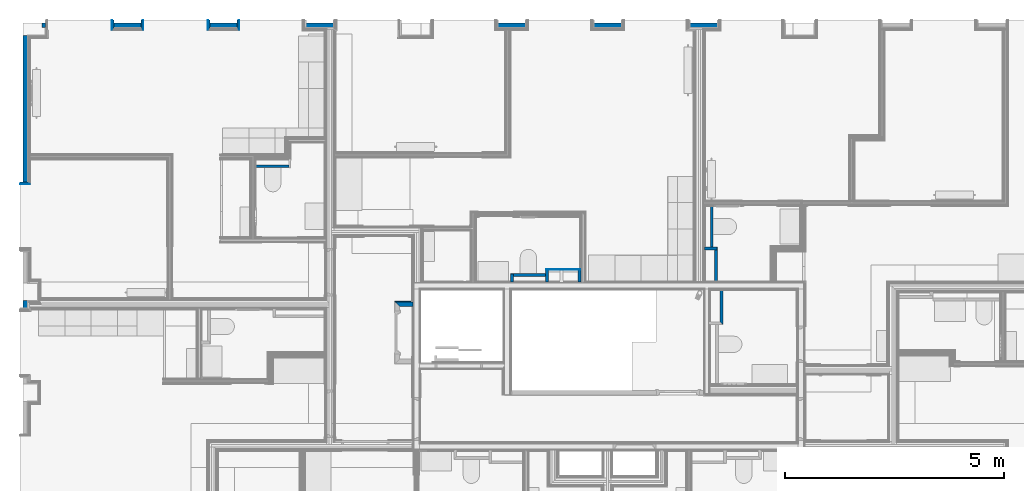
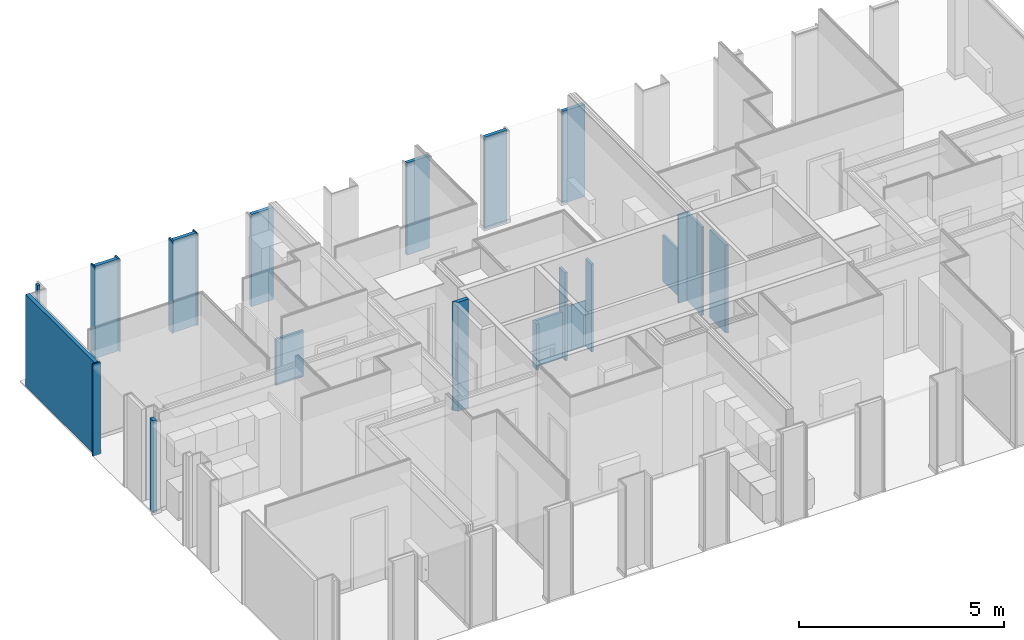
# One storey, part 3 of 64: 30 walls.
"""IFC2X3 building model written with IfcOpenShell, lengths in metres."""

import ifcopenshell
import ifcopenshell.guid

model = None  # the IFC model being written
_history = None  # IfcOwnerHistory: only IFC2X3 demands one
_inside = {}  # id of a spatial element -> (the spatial element, [elements in it])
_under = {}  # id of a project, library or spatial element -> (it, [spatial elements below it])
_declared = {}  # id of a project -> (the project, [libraries it declares])
_typed = {}  # id of a type object -> (the type object, [elements of that type])
_made_of = {}  # id of a material, layer set ... -> (it, [elements and type objects made of it])


def new_model(schema):
    """Start an empty IFC model of exactly this schema.

    Asked for "IFC4X3", IfcOpenShell would pick the latest addendum, in which some entities
    have other attributes; the version numbers below select the first issue.
    IFC2X3 requires an IfcOwnerHistory on every rooted entity: one is made here for all.
    """
    global model, _history
    if schema == "IFC4X3":
        model = ifcopenshell.file(schema_version=(4, 3, 0, 0))
    else:
        model = ifcopenshell.file(schema=schema)
    _inside.clear()
    _under.clear()
    _declared.clear()
    _typed.clear()
    _made_of.clear()
    _history = None
    if model.schema == "IFC2X3":
        org = make("IfcOrganization", Name="unknown")
        user = make(
            "IfcPersonAndOrganization",
            ThePerson=make("IfcPerson", FamilyName="unknown"),
            TheOrganization=org,
        )
        app = make(
            "IfcApplication",
            ApplicationDeveloper=org,
            Version="unknown",
            ApplicationFullName="unknown",
            ApplicationIdentifier="unknown",
        )
        _history = make(
            "IfcOwnerHistory",
            OwningUser=user,
            OwningApplication=app,
            ChangeAction="ADDED",
            CreationDate=0,
        )
    return model


def make(cls, **values):
    """One entity of the class cls with the attributes given. An attribute that is None is left unset."""
    return model.create_entity(
        cls, **{name: value for name, value in values.items() if value is not None}
    )


def entity(cls, *values):
    """Any entity or typed value of the class cls, its attributes in the order of the schema. None: left unset."""
    e = model.create_entity(cls)
    for i, value in enumerate(values):
        if value is not None:
            e[i] = value
    return e


def rooted(cls, **values):
    """An entity with a GlobalId (a new one), such as an element, a storey or a relation."""
    return make(cls, GlobalId=ifcopenshell.guid.new(), OwnerHistory=_history, **values)


def si_unit(unit_type, name, prefix=None):
    """IfcSIUnit, for example si_unit("LENGTHUNIT", "METRE", prefix="MILLI")."""
    return make("IfcSIUnit", UnitType=unit_type, Prefix=prefix, Name=name)


def converted_unit(unit_type, name, factor, base, dimensions=None, offset=None):
    """IfcConversionBasedUnit, such as the inch: factor (a typed value) times the base unit."""
    return make(
        "IfcConversionBasedUnit"
        if offset is None
        else "IfcConversionBasedUnitWithOffset",
        ConversionOffset=offset,
        Dimensions=None
        if dimensions is None
        else entity("IfcDimensionalExponents", *dimensions),
        UnitType=unit_type,
        Name=name,
        ConversionFactor=make(
            "IfcMeasureWithUnit", ValueComponent=factor, UnitComponent=base
        ),
    )


def derived_unit(unit_type, elements):
    """IfcDerivedUnit: a product of units, each with its exponent."""
    return make(
        "IfcDerivedUnit",
        Elements=[
            make("IfcDerivedUnitElement", Unit=unit, Exponent=power)
            for unit, power in elements
        ],
        UnitType=unit_type,
    )


def money_unit(currency):
    """IfcMonetaryUnit."""
    return make("IfcMonetaryUnit", Currency=currency)


def assignment(units):
    """IfcUnitAssignment: the units of a project."""
    return None if units is None else make("IfcUnitAssignment", Units=units)


def point(xyz):
    """IfcCartesianPoint."""
    return None if xyz is None else make("IfcCartesianPoint", Coordinates=xyz)


def direction(xyz):
    """IfcDirection."""
    return None if xyz is None else make("IfcDirection", DirectionRatios=xyz)


def frame(location, z_axis=None, x_axis=None):
    """IfcAxis2Placement3D, a coordinate frame: its origin and axes. An axis left out is left unset."""
    return make(
        "IfcAxis2Placement3D",
        Location=point(location),
        Axis=direction(z_axis),
        RefDirection=direction(x_axis),
    )


def frame_2d(location, x_axis=None):
    """IfcAxis2Placement2D, a coordinate frame in the plane: its origin and x axis."""
    return make(
        "IfcAxis2Placement2D", Location=point(location), RefDirection=direction(x_axis)
    )


def origin_with_axes():
    """The frame at (0, 0, 0) with the z axis (0, 0, 1) and the x axis (1, 0, 0) written out."""
    return frame((0.0, 0.0, 0.0), z_axis=(0.0, 0.0, 1.0), x_axis=(1.0, 0.0, 0.0))


def place(relative_to, where):
    """IfcLocalPlacement: puts the frame where relative to a parent placement (None: the world)."""
    return make(
        "IfcLocalPlacement", PlacementRelTo=relative_to, RelativePlacement=where
    )


def context(
    kind, dimensions, precision=None, world=None, true_north=None, identifier=None
):
    """IfcGeometricRepresentationContext, for example the 3D "Model" context."""
    return make(
        "IfcGeometricRepresentationContext",
        ContextIdentifier=identifier,
        ContextType=kind,
        CoordinateSpaceDimension=dimensions,
        Precision=precision,
        WorldCoordinateSystem=world,
        TrueNorth=true_north,
    )


def subcontext(parent, identifier, kind, view, scale=None):
    """IfcGeometricRepresentationSubContext, for example "Body" below "Model"."""
    return make(
        "IfcGeometricRepresentationSubContext",
        ContextIdentifier=identifier,
        ContextType=kind,
        ParentContext=parent,
        TargetScale=scale,
        TargetView=view,
    )


def project(units=None, contexts=None):
    """IfcProject with its units and contexts."""
    return rooted(
        "IfcProject",
        Name="project",
        RepresentationContexts=contexts,
        UnitsInContext=assignment(units),
    )


def spatial(cls, under=None, at=None, **own):
    """A site, building, storey or space (cls), placed at a placement, below another one or the project."""
    s = rooted(cls, ObjectPlacement=at, **own)
    if under is not None:
        _under.setdefault(under.id(), (under, []))[1].append(s)
    return s


def polyline(points):
    """IfcPolyline through the points."""
    return make("IfcPolyline", Points=[point(p) for p in points])


def profile(cls, at=None, kind="AREA", **sizes):
    """A parametric profile (cls). Its sizes go by their IFC names, for example OverallWidth=200.0."""
    return make(cls, ProfileType=kind, Position=at, **sizes)


def rectangle(**sizes):
    """IfcRectangleProfileDef."""
    return profile("IfcRectangleProfileDef", **sizes)


def outline(outer, holes=None, kind="AREA"):
    """IfcArbitraryClosedProfileDef: a profile drawn as a closed curve; with holes, ...WithVoids."""
    if holes is None:
        return make("IfcArbitraryClosedProfileDef", ProfileType=kind, OuterCurve=outer)
    return make(
        "IfcArbitraryProfileDefWithVoids",
        ProfileType=kind,
        OuterCurve=outer,
        InnerCurves=holes,
    )


def extrude(swept, where, along, depth):
    """IfcExtrudedAreaSolid: the profile swept, set in the frame where, extruded along a direction by depth."""
    return make(
        "IfcExtrudedAreaSolid",
        SweptArea=swept,
        Position=where,
        ExtrudedDirection=direction(along),
        Depth=depth,
    )


def clip(a, b, op="DIFFERENCE"):
    """IfcBooleanClippingResult: the solid a cut by the half space b."""
    return make(
        "IfcBooleanClippingResult", Operator=op, FirstOperand=a, SecondOperand=b
    )


def bounded_halfspace(plane, agree, where, boundary):
    """IfcPolygonalBoundedHalfSpace: a half space limited to a polygon's prism."""
    return make(
        "IfcPolygonalBoundedHalfSpace",
        BaseSurface=make("IfcPlane", Position=plane),
        AgreementFlag=agree,
        Position=where,
        PolygonalBoundary=boundary,
    )


def shape(context_of_items, identifier, shape_type, items):
    """IfcShapeRepresentation: the items that make up one representation, for example the "Body"."""
    return make(
        "IfcShapeRepresentation",
        ContextOfItems=context_of_items,
        RepresentationIdentifier=identifier,
        RepresentationType=shape_type,
        Items=items,
    )


def material(Name=None, Category=None):
    """IfcMaterial."""
    return make("IfcMaterial", Name=Name, Category=Category)


def layer(
    of_material, thickness, ventilated=None, Name=None, Category=None, Priority=None
):
    """IfcMaterialLayer: one layer of a wall or slab, of a material (None: an air gap)."""
    return make(
        "IfcMaterialLayer",
        Material=of_material,
        LayerThickness=thickness,
        IsVentilated=ventilated,
        Name=Name,
        Category=Category,
        Priority=Priority,
    )


def layer_set(layers, Name=None):
    """IfcMaterialLayerSet."""
    return make("IfcMaterialLayerSet", MaterialLayers=layers, LayerSetName=Name)


def layer_usage(for_layer_set, set_direction, sense, offset, extent=None):
    """IfcMaterialLayerSetUsage: how a layer set lies in its element."""
    return make(
        "IfcMaterialLayerSetUsage",
        ForLayerSet=for_layer_set,
        LayerSetDirection=set_direction,
        DirectionSense=sense,
        OffsetFromReferenceLine=offset,
        ReferenceExtent=extent,
    )


def made_of(thing, what):
    """Note that an element or type object is made of a material, layer set ...; save() writes the relation."""
    if what is not None:
        _made_of.setdefault(what.id(), (what, []))[1].append(thing)
    return thing


def type_object(cls, material=None, **own):
    """A type object (cls), such as IfcWallType, which elements share."""
    return made_of(rooted(cls, **own), material)


def element(
    cls,
    number,
    at=None,
    inside=None,
    cuts=None,
    type_object=None,
    material=None,
    context=None,
    identifier="Body",
    shape_type=None,
    held_by="IfcProductDefinitionShape",
    body=None,
    shapes=None,
    **own,
):
    """One element of the class cls, such as IfcWall. Its Tag is "e" and its number.

    at: its placement. inside: the storey or other place that contains it. cuts: it is an
    opening in that element (IfcRelVoidsElement). A single representation is given by context,
    identifier, shape_type and body (its items); several are given by shapes. held_by: the class
    of the entity that holds the representations. save() writes the other relations.
    """
    e = rooted(cls, Tag="e%d" % number, ObjectPlacement=at, **own)
    if body is not None:
        shapes = [shape(context, identifier, shape_type, body)]
    if shapes is not None:
        e.Representation = make(held_by, Representations=shapes)
    if inside is not None:
        _inside.setdefault(inside.id(), (inside, []))[1].append(e)
    if cuts is not None:
        rooted(
            "IfcRelVoidsElement", RelatingBuildingElement=cuts, RelatedOpeningElement=e
        )
    if type_object is not None:
        _typed.setdefault(type_object.id(), (type_object, []))[1].append(e)
    return made_of(e, material)


def aggregate(whole, parts):
    """IfcRelAggregates: a whole, such as a stair, and the parts it consists of."""
    return rooted("IfcRelAggregates", RelatingObject=whole, RelatedObjects=parts)


def save(model, path):
    """Write the relations noted so far, then the file.

    IfcRelAggregates (storeys below a building ...), IfcRelContainedInSpatialStructure (elements
    in a storey), IfcRelDefinesByType, IfcRelAssociatesMaterial and IfcRelDeclares: one each for
    every whole, place, type object, material and project.
    """
    for whole, parts in _under.values():
        aggregate(whole, parts)
    for where, things in _inside.values():
        rooted(
            "IfcRelContainedInSpatialStructure",
            RelatedElements=things,
            RelatingStructure=where,
        )
    for kind, things in _typed.values():
        rooted("IfcRelDefinesByType", RelatedObjects=things, RelatingType=kind)
    for what, things in _made_of.values():
        rooted("IfcRelAssociatesMaterial", RelatedObjects=things, RelatingMaterial=what)
    for by, libraries in _declared.values():
        rooted("IfcRelDeclares", RelatingContext=by, RelatedDefinitions=libraries)
    model.write(path)


model = new_model("IFC2X3")

# Units and contexts
model_context = context("Model", 3, precision=1e-05, world=origin_with_axes(), true_north=direction((0.0, 1.0)))
body_context = subcontext(model_context, "Body", "Model", "MODEL_VIEW", scale=1.0)
ifc_project = project(units=[si_unit("LENGTHUNIT", "METRE"), si_unit("AREAUNIT", "SQUARE_METRE"), si_unit("VOLUMEUNIT", "CUBIC_METRE"), si_unit("ABSORBEDDOSEUNIT", "GRAY"), si_unit("AMOUNTOFSUBSTANCEUNIT", "MOLE"), si_unit("DOSEEQUIVALENTUNIT", "SIEVERT"), si_unit("ELECTRICCAPACITANCEUNIT", "FARAD"), si_unit("ELECTRICCHARGEUNIT", "COULOMB"), si_unit("ELECTRICCONDUCTANCEUNIT", "SIEMENS"), si_unit("ELECTRICCURRENTUNIT", "AMPERE"), si_unit("ELECTRICRESISTANCEUNIT", "OHM"), si_unit("ELECTRICVOLTAGEUNIT", "VOLT"), si_unit("ENERGYUNIT", "JOULE"), si_unit("FORCEUNIT", "NEWTON"), si_unit("FREQUENCYUNIT", "HERTZ"), si_unit("ILLUMINANCEUNIT", "LUX"), si_unit("INDUCTANCEUNIT", "HENRY"), si_unit("LUMINOUSFLUXUNIT", "LUMEN"), si_unit("LUMINOUSINTENSITYUNIT", "CANDELA"), si_unit("MAGNETICFLUXDENSITYUNIT", "TESLA"), si_unit("MAGNETICFLUXUNIT", "WEBER"), si_unit("MASSUNIT", "GRAM"), converted_unit("PLANEANGLEUNIT", "degree", entity("IfcReal", 0.0174532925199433), si_unit("PLANEANGLEUNIT", "RADIAN"), dimensions=[0, 0, 0, 0, 0, 0, 0]), si_unit("POWERUNIT", "WATT"), si_unit("PRESSUREUNIT", "PASCAL"), si_unit("RADIOACTIVITYUNIT", "BECQUEREL"), si_unit("SOLIDANGLEUNIT", "STERADIAN"), si_unit("THERMODYNAMICTEMPERATUREUNIT", "KELVIN"), si_unit("TIMEUNIT", "SECOND"), derived_unit("ACCELERATIONUNIT", [(si_unit("LENGTHUNIT", "METRE"), 1), (si_unit("TIMEUNIT", "SECOND"), -2)]), derived_unit("ANGULARVELOCITYUNIT", [(converted_unit("PLANEANGLEUNIT", "degree", entity("IfcReal", 0.0174532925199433), si_unit("PLANEANGLEUNIT", "RADIAN"), dimensions=[0, 0, 0, 0, 0, 0, 0]), 1), (si_unit("TIMEUNIT", "SECOND"), -1)]), derived_unit("CURVATUREUNIT", [(converted_unit("PLANEANGLEUNIT", "degree", entity("IfcReal", 0.0174532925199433), si_unit("PLANEANGLEUNIT", "RADIAN"), dimensions=[0, 0, 0, 0, 0, 0, 0]), 1), (si_unit("LENGTHUNIT", "METRE"), -1)]), derived_unit("DYNAMICVISCOSITYUNIT", [(si_unit("PRESSUREUNIT", "PASCAL"), 1), (si_unit("TIMEUNIT", "SECOND"), 1)]), derived_unit("HEATFLUXDENSITYUNIT", [(si_unit("POWERUNIT", "WATT"), 1), (si_unit("LENGTHUNIT", "METRE"), -2)]), derived_unit("HEATINGVALUEUNIT", [(si_unit("ENERGYUNIT", "JOULE"), 1), (si_unit("MASSUNIT", "GRAM"), -1)]), derived_unit("INTEGERCOUNTRATEUNIT", [(si_unit("TIMEUNIT", "SECOND"), -1)]), derived_unit("IONCONCENTRATIONUNIT", [(si_unit("MASSUNIT", "GRAM"), 1), (si_unit("VOLUMEUNIT", "CUBIC_METRE"), -1)]), derived_unit("ISOTHERMALMOISTURECAPACITYUNIT", [(si_unit("VOLUMEUNIT", "CUBIC_METRE"), 1), (si_unit("MASSUNIT", "GRAM"), -1)]), derived_unit("KINEMATICVISCOSITYUNIT", [(si_unit("AREAUNIT", "SQUARE_METRE"), 1), (si_unit("TIMEUNIT", "SECOND"), -1)]), derived_unit("LINEARFORCEUNIT", [(si_unit("FORCEUNIT", "NEWTON"), 1), (si_unit("LENGTHUNIT", "METRE"), -1)]), derived_unit("LINEARMOMENTUNIT", [(si_unit("FORCEUNIT", "NEWTON"), 1), (si_unit("LENGTHUNIT", "METRE"), -1)]), derived_unit("LINEARSTIFFNESSUNIT", [(si_unit("FORCEUNIT", "NEWTON"), 1), (si_unit("LENGTHUNIT", "METRE"), -1)]), derived_unit("LINEARVELOCITYUNIT", [(si_unit("LENGTHUNIT", "METRE"), 1), (si_unit("TIMEUNIT", "SECOND"), -1)]), derived_unit("LUMINOUSINTENSITYDISTRIBUTIONUNIT", [(si_unit("LUMINOUSINTENSITYUNIT", "CANDELA"), 1), (si_unit("LUMINOUSFLUXUNIT", "LUMEN"), -1)]), derived_unit("MASSDENSITYUNIT", [(si_unit("MASSUNIT", "GRAM"), 1), (si_unit("VOLUMEUNIT", "CUBIC_METRE"), -1)]), derived_unit("MASSFLOWRATEUNIT", [(si_unit("MASSUNIT", "GRAM"), 1), (si_unit("TIMEUNIT", "SECOND"), -1)]), derived_unit("MASSPERLENGTHUNIT", [(si_unit("MASSUNIT", "GRAM"), 1), (si_unit("LENGTHUNIT", "METRE"), -1)]), derived_unit("MODULUSOFELASTICITYUNIT", [(si_unit("FORCEUNIT", "NEWTON"), 1), (si_unit("AREAUNIT", "SQUARE_METRE"), -1)]), derived_unit("MODULUSOFLINEARSUBGRADEREACTIONUNIT", [(si_unit("FORCEUNIT", "NEWTON"), 1), (si_unit("LENGTHUNIT", "METRE"), -2)]), derived_unit("MODULUSOFROTATIONALSUBGRADEREACTIONUNIT", [(si_unit("FORCEUNIT", "NEWTON"), 1), (si_unit("LENGTHUNIT", "METRE"), 1)]), derived_unit("MODULUSOFSUBGRADEREACTIONUNIT", [(si_unit("FORCEUNIT", "NEWTON"), 1), (si_unit("VOLUMEUNIT", "CUBIC_METRE"), -1)]), derived_unit("MOISTUREDIFFUSIVITYUNIT", [(si_unit("VOLUMEUNIT", "CUBIC_METRE"), 1), (si_unit("TIMEUNIT", "SECOND"), -1)]), derived_unit("MOLECULARWEIGHTUNIT", [(si_unit("MASSUNIT", "GRAM"), 1), (si_unit("AMOUNTOFSUBSTANCEUNIT", "MOLE"), -1)]), derived_unit("PLANARFORCEUNIT", [(si_unit("FORCEUNIT", "NEWTON"), 1), (si_unit("LENGTHUNIT", "METRE"), -2)]), derived_unit("ROTATIONALFREQUENCYUNIT", [(si_unit("TIMEUNIT", "SECOND"), -1)]), derived_unit("ROTATIONALMASSUNIT", [(si_unit("MASSUNIT", "GRAM"), 1), (si_unit("LENGTHUNIT", "METRE"), 2)]), derived_unit("ROTATIONALSTIFFNESSUNIT", [(si_unit("FORCEUNIT", "NEWTON"), 1), (si_unit("LENGTHUNIT", "METRE"), 1), (converted_unit("PLANEANGLEUNIT", "degree", entity("IfcReal", 0.0174532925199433), si_unit("PLANEANGLEUNIT", "RADIAN"), dimensions=[0, 0, 0, 0, 0, 0, 0]), -1)]), derived_unit("SECTIONAREAINTEGRALUNIT", [(si_unit("LENGTHUNIT", "METRE"), 5)]), derived_unit("SECTIONMODULUSUNIT", [(si_unit("LENGTHUNIT", "METRE"), 3)]), derived_unit("SHEARMODULUSUNIT", [(si_unit("FORCEUNIT", "NEWTON"), 1), (si_unit("AREAUNIT", "SQUARE_METRE"), -1)]), derived_unit("SOUNDPOWERUNIT", [(si_unit("ENERGYUNIT", "JOULE"), 1), (si_unit("TIMEUNIT", "SECOND"), -1)]), derived_unit("SPECIFICHEATCAPACITYUNIT", [(si_unit("FORCEUNIT", "NEWTON"), 1), (si_unit("MASSUNIT", "GRAM"), -1), (si_unit("THERMODYNAMICTEMPERATUREUNIT", "KELVIN"), -1)]), derived_unit("TEMPERATUREGRADIENTUNIT", [(si_unit("THERMODYNAMICTEMPERATUREUNIT", "KELVIN"), 1), (si_unit("LENGTHUNIT", "METRE"), -1)]), derived_unit("THERMALADMITTANCEUNIT", [(si_unit("POWERUNIT", "WATT"), 1), (si_unit("AREAUNIT", "SQUARE_METRE"), -1), (si_unit("THERMODYNAMICTEMPERATUREUNIT", "KELVIN"), -1)]), derived_unit("THERMALCONDUCTANCEUNIT", [(si_unit("POWERUNIT", "WATT"), 1), (si_unit("LENGTHUNIT", "METRE"), -1), (si_unit("THERMODYNAMICTEMPERATUREUNIT", "KELVIN"), -1)]), derived_unit("THERMALEXPANSIONCOEFFICIENTUNIT", [(si_unit("THERMODYNAMICTEMPERATUREUNIT", "KELVIN"), -1)]), derived_unit("THERMALRESISTANCEUNIT", [(si_unit("AREAUNIT", "SQUARE_METRE"), 1), (si_unit("POWERUNIT", "WATT"), -1)]), derived_unit("THERMALTRANSMITTANCEUNIT", [(si_unit("POWERUNIT", "WATT"), 1), (si_unit("AREAUNIT", "SQUARE_METRE"), -1), (si_unit("THERMODYNAMICTEMPERATUREUNIT", "KELVIN"), -1)]), derived_unit("TORQUEUNIT", [(si_unit("FORCEUNIT", "NEWTON"), 1), (si_unit("LENGTHUNIT", "METRE"), 1)]), derived_unit("VAPORPERMEABILITYUNIT", [(si_unit("MASSUNIT", "GRAM"), 1), (si_unit("TIMEUNIT", "SECOND"), -1)]), derived_unit("VOLUMETRICFLOWRATEUNIT", [(si_unit("VOLUMEUNIT", "CUBIC_METRE"), 1), (si_unit("TIMEUNIT", "SECOND"), -1)]), derived_unit("WARPINGCONSTANTUNIT", [(si_unit("LENGTHUNIT", "METRE"), 6)]), derived_unit("WARPINGMOMENTUNIT", [(si_unit("FORCEUNIT", "NEWTON"), 1), (si_unit("LENGTHUNIT", "METRE"), 2)]), money_unit("GBP")], contexts=[model_context])

# Site, building, storey
site_placement = place(None, origin_with_axes())
site = spatial("IfcSite", under=ifc_project, at=site_placement, Name="Site", CompositionType="ELEMENT")
building_placement = place(site_placement, origin_with_axes())
building = spatial("IfcBuilding", under=site, at=building_placement, Name="Building01", CompositionType="ELEMENT")
storey_placement = place(building_placement, frame((0.0, 0.0, 8.64), z_axis=(0.0, 0.0, 1.0), x_axis=(1.0, 0.0, 0.0)))
storey = spatial("IfcBuildingStorey", under=building, at=storey_placement, Name="2F", CompositionType="ELEMENT", Elevation=8.64)

# Walls
ifc_material_1 = material(Name="A_BSUK_WallsExternal_Block")
ifc_layer_1 = layer(ifc_material_1, 0.1, ventilated=False)
ifc_layer_set_1 = layer_set([ifc_layer_1])
ifc_layer_usage_1 = layer_usage(ifc_layer_set_1, "AXIS2", "POSITIVE", 0.0)
wall_type_1 = type_object("IfcWallType", Name="A-Walls-ExternalBlock", PredefinedType="NOTDEFINED")
wall_1_placement = place(storey_placement, frame((0.6, 14.63, 0.0), z_axis=(0.0, 0.0, 1.0), x_axis=(1.0, 0.0, 0.0)))
element("IfcWallStandardCase", 1, at=wall_1_placement, inside=storey, type_object=wall_type_1, material=ifc_layer_usage_1, Name="A-Walls-ExternalBlock", ObjectType="A-Walls-ExternalBlock", context=body_context, shape_type="SweptSolid", body=[
    extrude(rectangle(XDim=0.077, YDim=0.1, at=frame_2d((0.0385, 0.05), x_axis=(1.0, 0.0))), origin_with_axes(), (0.0, 0.0, 1.0), 2.74),
])
wall_2_placement = place(storey_placement, frame((0.17, 14.45, 0.0), z_axis=(0.0, 0.0, 1.0), x_axis=(0.0, -1.0, 0.0)))
element("IfcWallStandardCase", 2, at=wall_2_placement, inside=storey, type_object=wall_type_1, material=ifc_layer_usage_1, Name="A-Walls-ExternalBlock", ObjectType="A-Walls-ExternalBlock", context=body_context, shape_type="SweptSolid", body=[
    extrude(rectangle(XDim=3.347, YDim=0.1, at=frame_2d((1.6735, 0.05), x_axis=(1.0, 0.0))), origin_with_axes(), (0.0, 0.0, 1.0), 2.74),
])
wall_3_placement = place(storey_placement, frame((0.17, 8.4, 0.0), z_axis=(0.0, 0.0, 1.0), x_axis=(0.0, -1.0, 0.0)))
element("IfcWallStandardCase", 3, at=wall_3_placement, inside=storey, type_object=wall_type_1, material=ifc_layer_usage_1, Name="A-Walls-ExternalBlock", ObjectType="A-Walls-ExternalBlock", context=body_context, shape_type="SweptSolid", body=[
    extrude(rectangle(XDim=0.167, YDim=0.1, at=frame_2d((0.0835, 0.05), x_axis=(-1.0, 0.0))), origin_with_axes(), (0.0, 0.0, 1.0), 2.74),
])
for number, where, z_axis, x_axis, name in (
    (4, (2.243, 14.63, 0.0), (0.0, 0.0, 1.0), (1.0, 0.0, 0.0), "A-Walls-ExternalBlock"),
    (5, (4.433, 14.63, 0.0), (0.0, 0.0, 1.0), (1.0, 0.0, 0.0), "A-Walls-ExternalBlock"),
):
    element("IfcWallStandardCase", number, at=place(storey_placement, frame(where, z_axis=z_axis, x_axis=x_axis)), inside=storey, type_object=wall_type_1, material=ifc_layer_usage_1, Name=name, ObjectType="A-Walls-ExternalBlock", context=body_context, shape_type="SweptSolid", body=[
        extrude(rectangle(XDim=0.624, YDim=0.1, at=frame_2d((0.312, 0.05), x_axis=(1.0, 0.0))), origin_with_axes(), (0.0, 0.0, 1.0), 2.74),
    ])
wall_4_placement = place(storey_placement, frame((6.622876, 14.63, 0.0), z_axis=(0.0, 0.0, 1.0), x_axis=(1.0, 0.0, 0.0)))
element("IfcWallStandardCase", 6, at=wall_4_placement, inside=storey, type_object=wall_type_1, material=ifc_layer_usage_1, Name="A-Walls-ExternalBlock", ObjectType="A-Walls-ExternalBlock", context=body_context, shape_type="SweptSolid", body=[
    extrude(rectangle(XDim=0.624124, YDim=0.1, at=frame_2d((0.312062, 0.05), x_axis=(-1.0, 0.0))), origin_with_axes(), (0.0, 0.0, 1.0), 2.74),
])
for number, where, z_axis, x_axis, name in (
    (7, (11.003, 14.63, 0.0), (0.0, 0.0, 1.0), (1.0, 0.0, 0.0), "A-Walls-ExternalBlock"),
    (8, (13.193, 14.63, 0.0), (0.0, 0.0, 1.0), (1.0, 0.0, 0.0), "A-Walls-ExternalBlock"),
    (9, (15.383, 14.63, 0.0), (0.0, 0.0, 1.0), (1.0, 0.0, 0.0), "A-Walls-ExternalBlock"),
):
    element("IfcWallStandardCase", number, at=place(storey_placement, frame(where, z_axis=z_axis, x_axis=x_axis)), inside=storey, type_object=wall_type_1, material=ifc_layer_usage_1, Name=name, ObjectType="A-Walls-ExternalBlock", context=body_context, shape_type="SweptSolid", body=[
        extrude(rectangle(XDim=0.624, YDim=0.1, at=frame_2d((0.312, 0.05), x_axis=(1.0, 0.0))), origin_with_axes(), (0.0, 0.0, 1.0), 2.74),
    ])
ifc_material_2 = material(Name="A_BSUK_OpeningsClearance")
ifc_layer_2 = layer(ifc_material_2, 0.05, ventilated=False)
ifc_material_3 = material(Name="A_BSUK_Walls_Timber")
ifc_layer_3 = layer(ifc_material_3, 0.015, ventilated=False)
ifc_layer_set_2 = layer_set([ifc_layer_2, ifc_layer_3])
ifc_layer_usage_2 = layer_usage(ifc_layer_set_2, "AXIS2", "POSITIVE", 0.0)
wall_type_2 = type_object("IfcWallType", Name="SHE_A-Walls_Type05c_PreWallShell_65mm", PredefinedType="NOTDEFINED")
wall_5_placement = place(storey_placement, frame((12.153871, 8.82, 0.0), z_axis=(0.0, 0.0, 1.0), x_axis=(0.0, 1.0, 0.0)))
element("IfcWallStandardCase", 10, at=wall_5_placement, inside=storey, type_object=wall_type_2, material=ifc_layer_usage_2, Name="5C", ObjectType="SHE_A-Walls_Type05c_PreWallShell_65mm", context=body_context, shape_type="SweptSolid", body=[
    extrude(outline(polyline([(0.285, 0.05), (0.3, 0.05), (0.3, 0.065), (0.0, 0.065), (0.0, 0.0), (0.285, 0.0), (0.285, 0.05)])), origin_with_axes(), (0.0, 0.0, 1.0), 2.615),
])
ifc_layer_set_3 = layer_set([ifc_layer_3, ifc_layer_2])
ifc_layer_usage_3 = layer_usage(ifc_layer_set_3, "AXIS2", "POSITIVE", 0.0)
wall_6_placement = place(storey_placement, frame((16.065, 7.915, 0.0), z_axis=(0.0, 0.0, 1.0), x_axis=(0.0, 1.0, 0.0)))
element("IfcWallStandardCase", 11, at=wall_6_placement, inside=storey, type_object=wall_type_2, material=ifc_layer_usage_3, Name="5C", ObjectType="SHE_A-Walls_Type05c_PreWallShell_65mm", context=body_context, shape_type="SweptSolid", body=[
    extrude(outline(polyline([(0.72, -0.05), (0.75, -0.05), (0.75, 0.0), (0.0, 0.0), (-0.065, -0.065), (0.72, -0.065), (0.72, -0.05)])), origin_with_axes(), (0.0, 0.0, 1.0), 2.615),
])
wall_7_placement = place(storey_placement, frame((12.828585, 8.82, 0.0), z_axis=(0.0, 0.0, 1.0), x_axis=(0.0, 1.0, 0.0)))
element("IfcWallStandardCase", 12, at=wall_7_placement, inside=storey, type_object=wall_type_2, material=ifc_layer_usage_3, Name="5C", ObjectType="SHE_A-Walls_Type05c_PreWallShell_65mm", context=body_context, shape_type="SweptSolid", body=[
    extrude(outline(polyline([(0.285, -0.05), (0.285, 0.0), (0.0, 0.0), (0.0, -0.065), (0.3, -0.065), (0.3, -0.05), (0.285, -0.05)])), origin_with_axes(), (0.0, 0.0, 1.0), 2.615),
])
wall_8_placement = place(storey_placement, frame((15.943132, 9.555, 0.0), z_axis=(0.0, 0.0, 1.0), x_axis=(0.0, -1.0, 0.0)))
element("IfcWallStandardCase", 13, at=wall_8_placement, inside=storey, type_object=wall_type_2, material=ifc_layer_usage_2, Name="5C", ObjectType="SHE_A-Walls_Type05c_PreWallShell_65mm", context=body_context, shape_type="SweptSolid", body=[
    extrude(outline(polyline([(0.72, 0.05), (0.72, 0.065), (-0.065, 0.065), (-0.065, 0.05), (0.0, 0.05), (0.0, 0.0), (0.735, 0.0), (0.735, 0.05), (0.72, 0.05)])), origin_with_axes(), (0.0, 0.0, 1.0), 2.615),
])
wall_9_placement = place(storey_placement, frame((15.708132, 9.555, 0.0), z_axis=(0.0, 0.0, 1.0), x_axis=(1.0, 0.0, 0.0)))
element("IfcWallStandardCase", 14, at=wall_9_placement, inside=storey, type_object=wall_type_2, material=ifc_layer_usage_2, Name="5C", ObjectType="SHE_A-Walls_Type05c_PreWallShell_65mm", context=body_context, shape_type="SweptSolid", body=[
    extrude(rectangle(XDim=0.285, YDim=0.065, at=frame_2d((0.1425, 0.0325), x_axis=(-1.0, 0.0))), origin_with_axes(), (0.0, 0.0, 1.0), 2.615),
])
wall_10_placement = place(storey_placement, frame((15.843132, 9.605, 0.0), z_axis=(0.0, 0.0, 1.0), x_axis=(0.0, 1.0, 0.0)))
element("IfcWallStandardCase", 15, at=wall_10_placement, inside=storey, type_object=wall_type_2, material=ifc_layer_usage_3, Name="5C", ObjectType="SHE_A-Walls_Type05c_PreWallShell_65mm", context=body_context, shape_type="SweptSolid", body=[
    extrude(outline(polyline([(0.95, -0.05), (0.965, -0.05), (0.965, 0.0), (0.0, 0.0), (0.0, -0.05), (-0.05, -0.05), (-0.05, -0.065), (0.95, -0.065), (0.95, -0.05)])), origin_with_axes(), (0.0, 0.0, 1.0), 1.375),
])
wall_11_placement = place(storey_placement, frame((5.464669, 11.495672, 0.0), z_axis=(0.0, 0.0, 1.0), x_axis=(1.0, 0.0, 0.0)))
element("IfcWallStandardCase", 16, at=wall_11_placement, inside=storey, type_object=wall_type_2, material=ifc_layer_usage_3, Name="5C", ObjectType="SHE_A-Walls_Type05c_PreWallShell_65mm", context=body_context, shape_type="SweptSolid", body=[
    extrude(outline(polyline([(0.775, 0.0), (0.0, 0.0), (0.0, -0.05), (0.015, -0.05), (0.015, -0.065), (0.775, -0.065), (0.775, 0.0)])), origin_with_axes(), (0.0, 0.0, 1.0), 1.375),
])
wall_12_placement = place(storey_placement, frame((12.103871, 8.954996, 0.0), z_axis=(0.0, 0.0, 1.0), x_axis=(-1.0, 0.0, 0.0)))
element("IfcWallStandardCase", 17, at=wall_12_placement, inside=storey, type_object=wall_type_2, material=ifc_layer_usage_3, Name="5C", ObjectType="SHE_A-Walls_Type05c_PreWallShell_65mm", context=body_context, shape_type="SweptSolid", body=[
    extrude(outline(polyline([(0.749998, -0.05), (0.749998, 0.0), (0.0, 0.0), (0.0, -0.05), (0.015, -0.05), (0.015, -0.065), (0.799998, -0.065), (0.799998, -0.05), (0.749998, -0.05)])), origin_with_axes(), (0.0, 0.0, 1.0), 1.375),
])
wall_13_placement = place(storey_placement, frame((11.353873, 8.82, 0.0), z_axis=(0.0, 0.0, 1.0), x_axis=(0.0, 1.0, 0.0)))
element("IfcWallStandardCase", 18, at=wall_13_placement, inside=storey, type_object=wall_type_2, material=ifc_layer_usage_2, Name="5C", ObjectType="SHE_A-Walls_Type05c_PreWallShell_65mm", context=body_context, shape_type="SweptSolid", body=[
    extrude(outline(polyline([(0.184996, 0.05), (0.199996, 0.05), (0.199996, 0.065), (0.0, 0.065), (0.0, 0.0), (0.184996, 0.0), (0.184996, 0.05)])), origin_with_axes(), (0.0, 0.0, 1.0), 1.375),
])
ifc_material_4 = material(Name="A_BSUK_WallInternal_Finishes_Plasterboard")
ifc_layer_4 = layer(ifc_material_4, 0.013, ventilated=False)
ifc_layer_set_4 = layer_set([ifc_layer_4])
ifc_layer_usage_4 = layer_usage(ifc_layer_set_4, "AXIS2", "POSITIVE", 0.0)
wall_type_3 = type_object("IfcWallType", Name="default", PredefinedType="NOTDEFINED")
wall_14_placement = place(storey_placement, frame((0.305, 11.068, 0.0), z_axis=(0.0, 0.0, 1.0), x_axis=(-1.0, 0.0, 0.0)))
element("IfcWallStandardCase", 19, at=wall_14_placement, inside=storey, type_object=wall_type_3, material=ifc_layer_usage_4, Name="default", ObjectType="default", context=body_context, shape_type="SweptSolid", body=[
    extrude(outline(polyline([(-0.013, 0.013), (0.0, 0.0), (0.205, 0.0), (0.205, 0.013), (-0.013, 0.013)])), origin_with_axes(), (0.0, 0.0, 1.0), 2.74),
])
ifc_material_5 = material(Name="A_BSUK_Insulation")
ifc_layer_5 = layer(ifc_material_5, 0.036, ventilated=False)
ifc_layer_set_5 = layer_set([ifc_layer_5])
ifc_layer_usage_5 = layer_usage(ifc_layer_set_5, "AXIS2", "POSITIVE", 0.0)
wall_15_placement = place(storey_placement, frame((0.27, 11.103, 0.0), z_axis=(0.0, 0.0, 1.0), x_axis=(-1.0, 0.0, 0.0)))
element("IfcWallStandardCase", 20, at=wall_15_placement, inside=storey, type_object=wall_type_3, material=ifc_layer_usage_5, Name="default", ObjectType="default", context=body_context, shape_type="SweptSolid", body=[
    extrude(outline(polyline([(-0.036, 0.036), (0.0, 0.0), (0.17, 0.0), (0.17, 0.036), (-0.036, 0.036)])), origin_with_axes(), (0.0, 0.0, 1.0), 2.74),
])
wall_16_placement = place(storey_placement, frame((2.902, 14.8, 0.0), z_axis=(0.0, 0.0, 1.0), x_axis=(0.0, -1.0, 0.0)))
element("IfcWallStandardCase", 21, at=wall_16_placement, inside=storey, type_object=wall_type_3, material=ifc_layer_usage_4, Name="default", ObjectType="default", context=body_context, shape_type="SweptSolid", body=[
    extrude(outline(polyline([(0.218, 0.013), (0.0, 0.013), (0.0, 0.0), (0.205, 0.0), (0.218, 0.013)])), origin_with_axes(), (0.0, 0.0, 1.0), 2.74),
])
wall_17_placement = place(storey_placement, frame((2.867, 14.8, 0.0), z_axis=(0.0, 0.0, 1.0), x_axis=(0.0, -1.0, 0.0)))
element("IfcWallStandardCase", 22, at=wall_17_placement, inside=storey, type_object=wall_type_3, material=ifc_layer_usage_5, Name="default", ObjectType="default", context=body_context, shape_type="SweptSolid", body=[
    extrude(outline(polyline([(0.206, 0.036), (0.0, 0.036), (0.0, 0.0), (0.17, 0.0), (0.206, 0.036)])), origin_with_axes(), (0.0, 0.0, 1.0), 2.74),
])
wall_18_placement = place(storey_placement, frame((2.208, 14.595, 0.0), z_axis=(0.0, 0.0, 1.0), x_axis=(0.0, 1.0, 0.0)))
element("IfcWallStandardCase", 23, at=wall_18_placement, inside=storey, type_object=wall_type_3, material=ifc_layer_usage_4, Name="default", ObjectType="default", context=body_context, shape_type="SweptSolid", body=[
    extrude(outline(polyline([(-0.013, 0.013), (0.0, 0.0), (0.205, 0.0), (0.205, 0.013), (-0.013, 0.013)])), origin_with_axes(), (0.0, 0.0, 1.0), 2.74),
])
wall_19_placement = place(storey_placement, frame((2.243, 14.63, 0.0), z_axis=(0.0, 0.0, 1.0), x_axis=(0.0, 1.0, 0.0)))
element("IfcWallStandardCase", 24, at=wall_19_placement, inside=storey, type_object=wall_type_3, material=ifc_layer_usage_5, Name="default", ObjectType="default", context=body_context, shape_type="SweptSolid", body=[
    extrude(outline(polyline([(-0.036, 0.036), (0.0, 0.0), (0.17, 0.0), (0.17, 0.036), (-0.036, 0.036)])), origin_with_axes(), (0.0, 0.0, 1.0), 2.74),
])
wall_20_placement = place(storey_placement, frame((5.092, 14.8, 0.0), z_axis=(0.0, 0.0, 1.0), x_axis=(0.0, -1.0, 0.0)))
element("IfcWallStandardCase", 25, at=wall_20_placement, inside=storey, type_object=wall_type_3, material=ifc_layer_usage_4, Name="default", ObjectType="default", context=body_context, shape_type="SweptSolid", body=[
    extrude(outline(polyline([(0.218, 0.013), (0.0, 0.013), (0.0, 0.0), (0.205, 0.0), (0.218, 0.013)])), origin_with_axes(), (0.0, 0.0, 1.0), 2.74),
])
wall_21_placement = place(storey_placement, frame((5.057, 14.8, 0.0), z_axis=(0.0, 0.0, 1.0), x_axis=(0.0, -1.0, 0.0)))
element("IfcWallStandardCase", 26, at=wall_21_placement, inside=storey, type_object=wall_type_3, material=ifc_layer_usage_5, Name="default", ObjectType="default", context=body_context, shape_type="SweptSolid", body=[
    extrude(outline(polyline([(0.206, 0.036), (0.0, 0.036), (0.0, 0.0), (0.17, 0.0), (0.206, 0.036)])), origin_with_axes(), (0.0, 0.0, 1.0), 2.74),
])
wall_22_placement = place(storey_placement, frame((4.398, 14.595, 0.0), z_axis=(0.0, 0.0, 1.0), x_axis=(0.0, 1.0, 0.0)))
element("IfcWallStandardCase", 27, at=wall_22_placement, inside=storey, type_object=wall_type_3, material=ifc_layer_usage_4, Name="default", ObjectType="default", context=body_context, shape_type="SweptSolid", body=[
    extrude(outline(polyline([(-0.013, 0.013), (0.0, 0.0), (0.205, 0.0), (0.205, 0.013), (-0.013, 0.013)])), origin_with_axes(), (0.0, 0.0, 1.0), 2.74),
])
wall_23_placement = place(storey_placement, frame((4.433, 14.63, 0.0), z_axis=(0.0, 0.0, 1.0), x_axis=(0.0, 1.0, 0.0)))
element("IfcWallStandardCase", 28, at=wall_23_placement, inside=storey, type_object=wall_type_3, material=ifc_layer_usage_5, Name="default", ObjectType="default", context=body_context, shape_type="SweptSolid", body=[
    extrude(outline(polyline([(-0.036, 0.036), (0.0, 0.0), (0.17, 0.0), (0.17, 0.036), (-0.036, 0.036)])), origin_with_axes(), (0.0, 0.0, 1.0), 2.74),
])
ifc_layer_set_6 = layer_set([ifc_layer_3])
ifc_layer_usage_6 = layer_usage(ifc_layer_set_6, "AXIS2", "POSITIVE", 0.0)
wall_24_placement = place(storey_placement, frame((12.103871, 9.105, 0.0), z_axis=(0.0, 0.0, 1.0), x_axis=(1.0, 0.0, 0.0)))
element("IfcWallStandardCase", 29, at=wall_24_placement, inside=storey, type_object=wall_type_3, material=ifc_layer_usage_6, Name="default", ObjectType="default", context=body_context, shape_type="SweptSolid", body=[
    extrude(rectangle(XDim=0.774714, YDim=0.015, at=frame_2d((0.387357, 0.0075), x_axis=(-1.0, 0.0))), origin_with_axes(), (0.0, 0.0, 1.0), 1.375),
])
ifc_layer_6 = layer(ifc_material_4, 0.015, ventilated=False)
ifc_material_6 = material(Name="Air Cavity")
ifc_layer_7 = layer(ifc_material_6, 0.072, ventilated=False)
ifc_layer_set_7 = layer_set([ifc_layer_6, ifc_layer_7, ifc_layer_6, ifc_layer_3])
ifc_layer_usage_7 = layer_usage(ifc_layer_set_7, "AXIS2", "POSITIVE", 0.0)
wall_type_4 = type_object("IfcWallType", Name="SHE_A-Walls_Type04c_RiserWall_102mm_tall", PredefinedType="NOTDEFINED")
wall_25_placement = place(storey_placement, frame((8.658, 8.372405, 0.015), z_axis=(0.0, 0.0, 1.0), x_axis=(1.0, 0.0, 0.0)))
element("IfcWallStandardCase", 30, at=wall_25_placement, inside=storey, type_object=wall_type_4, material=ifc_layer_usage_7, Name="4C", ObjectType="SHE_A-Walls_Type04c_RiserWall_102mm_tall", context=body_context, shape_type="Clipping", body=[
    clip(clip(extrude(outline(polyline([(0.402, 0.015), (-0.015, 0.015), (0.0, 0.0), (0.0, -0.015), (0.015, -0.015), (0.102, -0.102), (0.402, -0.102), (0.402, 0.015)])), frame((0.0, 0.0, -0.015), z_axis=(0.0, 0.0, 1.0), x_axis=(1.0, 0.0, 0.0)), (0.0, 0.0, 1.0), 3.24), bounded_halfspace(frame((0.0, 0.0, 0.1), z_axis=(0.0, 0.0, 1.0), x_axis=(1.0, 0.0, 0.0)), False, frame((0.0, 0.0, 0.1), z_axis=(0.0, 0.0, 1.0), x_axis=(1.0, 0.0, 0.0)), polyline([(0.402, 0.015), (-0.015, 0.015), (0.0, 0.0), (0.402, 0.0), (0.402, 0.015)]))), bounded_halfspace(frame((0.0, 0.0, 0.0), z_axis=(0.0, 0.0, -1.0), x_axis=(-1.0, 0.0, 0.0)), False, frame((0.0, 0.0, 0.0), z_axis=(0.0, 0.0, -1.0), x_axis=(-1.0, 0.0, 0.0)), polyline([(-0.402, 0.0), (0.0, 0.0), (0.015, 0.015), (-0.402, 0.015), (-0.402, 0.0)]))),
])

save(model, "model.ifc")
